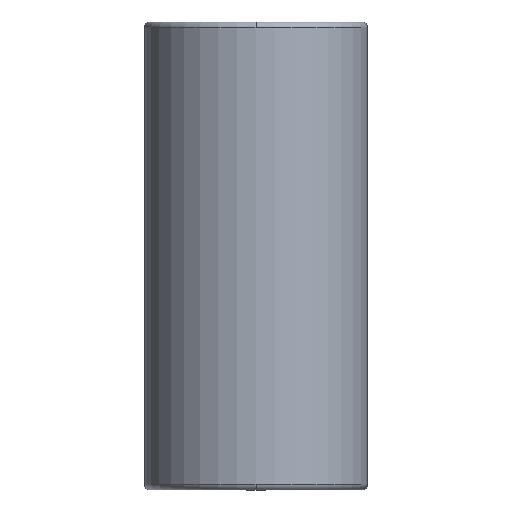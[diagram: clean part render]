
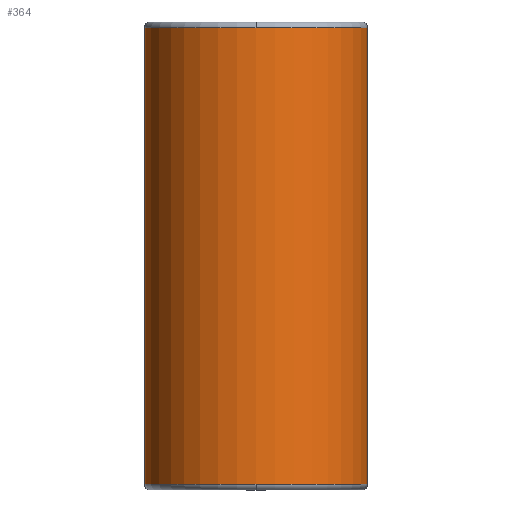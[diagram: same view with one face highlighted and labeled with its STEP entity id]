
A CAD part, front view. The second image highlights one B-rep face of the part: STEP entity #364.
In plain terms, the highlighted cylindrical face has radius 40.492 mm (diameter 80.984 mm), a partial arc.
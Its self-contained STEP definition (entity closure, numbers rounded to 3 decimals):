
#269=CARTESIAN_POINT('',(0.0,-40.492,168.));
#270=VERTEX_POINT('',#269);
#296=CARTESIAN_POINT('',(-40.492,0.,168.));
#297=VERTEX_POINT('',#296);
#305=CARTESIAN_POINT('',(0.0,0.,168.));
#306=DIRECTION('',(0.0,0.0,1.0));
#307=DIRECTION('',(1.0,0.0,0.0));
#308=AXIS2_PLACEMENT_3D('',#305,#306,#307);
#309=CIRCLE('',#308,40.492);
#310=EDGE_CURVE('',#297,#270,#309,.T.);
#315=CARTESIAN_POINT('',(0.0,0.,85.));
#316=DIRECTION('',(0.0,0.,1.0));
#317=DIRECTION('',(1.0,0.0,0.0));
#318=AXIS2_PLACEMENT_3D('',#315,#316,#317);
#319=CYLINDRICAL_SURFACE('',#318,40.492);
#320=CARTESIAN_POINT('',(40.492,0.,168.));
#321=VERTEX_POINT('',#320);
#322=CARTESIAN_POINT('',(40.492,0.,2.));
#323=VERTEX_POINT('',#322);
#324=CARTESIAN_POINT('',(40.492,0.,168.));
#325=DIRECTION('',(0.0,0.0,-1.0));
#326=VECTOR('',#325,166.);
#327=LINE('',#324,#326);
#328=EDGE_CURVE('',#321,#323,#327,.T.);
#329=ORIENTED_EDGE('',*,*,#328,.F.);
#330=CARTESIAN_POINT('',(0.0,0.,168.));
#331=DIRECTION('',(0.0,0.0,1.0));
#332=DIRECTION('',(1.0,0.0,0.0));
#333=AXIS2_PLACEMENT_3D('',#330,#331,#332);
#334=CIRCLE('',#333,40.492);
#335=EDGE_CURVE('',#270,#321,#334,.T.);
#336=ORIENTED_EDGE('',*,*,#335,.F.);
#337=ORIENTED_EDGE('',*,*,#310,.F.);
#338=CARTESIAN_POINT('',(-40.492,0.,2.0));
#339=VERTEX_POINT('',#338);
#340=CARTESIAN_POINT('',(-40.492,0.,168.));
#341=DIRECTION('',(0.0,0.0,-1.0));
#342=VECTOR('',#341,166.);
#343=LINE('',#340,#342);
#344=EDGE_CURVE('',#297,#339,#343,.T.);
#345=ORIENTED_EDGE('',*,*,#344,.T.);
#346=CARTESIAN_POINT('',(0.0,-40.492,2.));
#347=VERTEX_POINT('',#346);
#348=CARTESIAN_POINT('',(0.0,0.,2.0));
#349=DIRECTION('',(0.0,0.0,1.0));
#350=DIRECTION('',(1.0,0.0,0.0));
#351=AXIS2_PLACEMENT_3D('',#348,#349,#350);
#352=CIRCLE('',#351,40.492);
#353=EDGE_CURVE('',#339,#347,#352,.T.);
#354=ORIENTED_EDGE('',*,*,#353,.T.);
#355=CARTESIAN_POINT('',(0.0,0.,2.0));
#356=DIRECTION('',(0.0,0.0,1.0));
#357=DIRECTION('',(1.0,0.0,0.0));
#358=AXIS2_PLACEMENT_3D('',#355,#356,#357);
#359=CIRCLE('',#358,40.492);
#360=EDGE_CURVE('',#347,#323,#359,.T.);
#361=ORIENTED_EDGE('',*,*,#360,.T.);
#362=EDGE_LOOP('',(#329,#336,#337,#345,#354,#361));
#363=FACE_OUTER_BOUND('',#362,.T.);
#364=ADVANCED_FACE('',(#363),#319,.T.);
